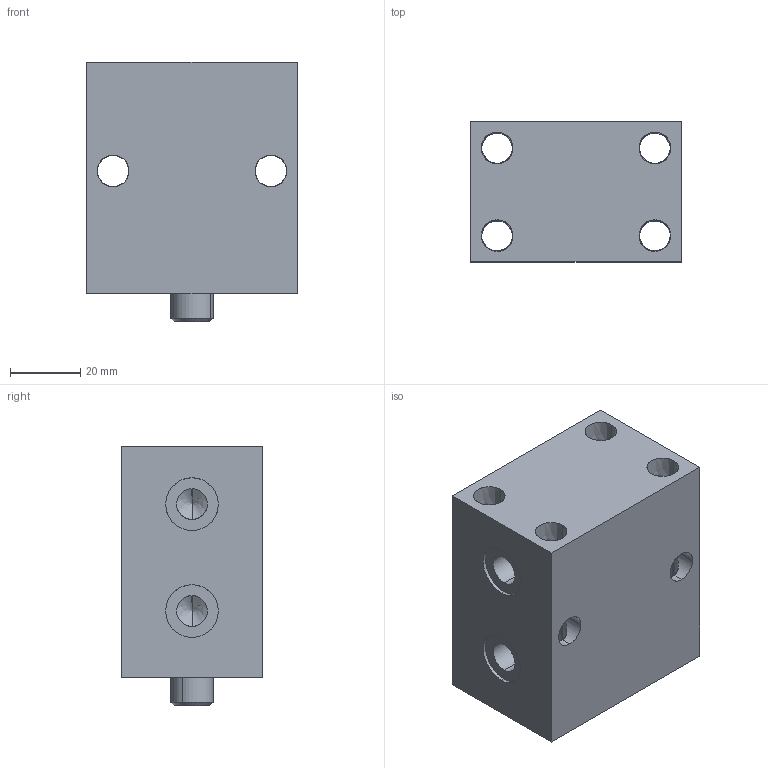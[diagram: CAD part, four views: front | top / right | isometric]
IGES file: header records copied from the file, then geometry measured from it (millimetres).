
Start section: SolidWorks IGES file using analytic representation for surfaces
Global section: file name: D:\karuppas\Clasp\3D model\Block cylinder B01C-Female thread\B01C-016F\Block cylinder B01C-016F.IGS; native system: SolidWorks 2017; preprocessor: SolidWorks 2017; author: pc; date: 220709.235438; units: millimetre
Bounding box: 60 x 40 x 74 mm (x, y, z)
Surface area: 30497.3 mm2 (no closed solid volume)
Topology: 0 solids, 0 shells, 341 faces, 5265 edges, 5259 vertices
Faces by surface type: bspline 289, revolution 52
